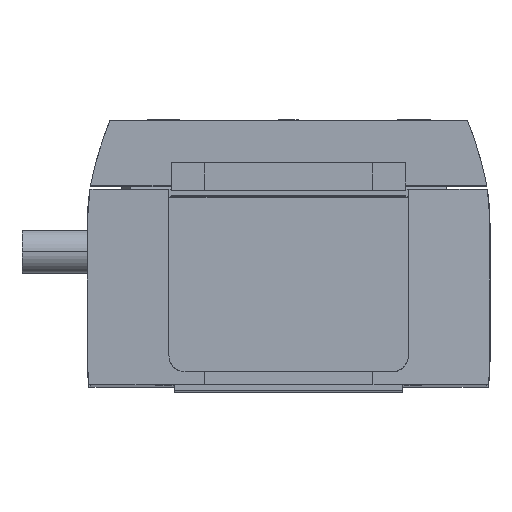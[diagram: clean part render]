
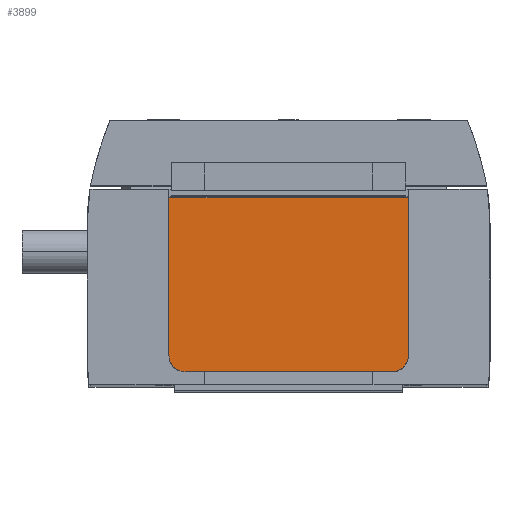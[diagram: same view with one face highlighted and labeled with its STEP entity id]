
A CAD part, top view. The second image highlights one B-rep face of the part: STEP entity #3899.
In plain terms, the highlighted planar face has unit normal (0, 0, 1).
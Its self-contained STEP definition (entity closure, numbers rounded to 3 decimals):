
#644 = CARTESIAN_POINT ( 'NONE',  ( 19., -19.6, 218.7 ) ) ;
#1228 = VECTOR ( 'NONE', #17626, 1000. ) ;
#1307 = EDGE_LOOP ( 'NONE', ( #10518, #6934, #12442, #23348, #8836, #17748 ) ) ;
#1359 = DIRECTION ( 'NONE',  ( 0., 1., 0. ) ) ;
#1942 = LINE ( 'NONE', #15416, #1228 ) ;
#2186 = CIRCLE ( 'NONE', #18596, 3. ) ;
#2213 = DIRECTION ( 'NONE',  ( 0., 0., 1. ) ) ;
#2316 = PLANE ( 'NONE',  #14459 ) ;
#2893 = DIRECTION ( 'NONE',  ( 1., 0., 0. ) ) ;
#3899 = ADVANCED_FACE ( 'NONE', ( #10058 ), #2316, .T. ) ;
#4530 = DIRECTION ( 'NONE',  ( 1., 0., 0. ) ) ;
#6934 = ORIENTED_EDGE ( 'NONE', *, *, #15915, .T. ) ;
#7270 = CARTESIAN_POINT ( 'NONE',  ( -22., 9.4, 218.7 ) ) ;
#7404 = CARTESIAN_POINT ( 'NONE',  ( -22., -19.6, 218.7 ) ) ;
#7724 = CARTESIAN_POINT ( 'NONE',  ( 22., 9.4, 218.7 ) ) ;
#7835 = CARTESIAN_POINT ( 'NONE',  ( -19., -22.6, 218.7 ) ) ;
#8130 = VECTOR ( 'NONE', #1359, 1000. ) ;
#8836 = ORIENTED_EDGE ( 'NONE', *, *, #26675, .T. ) ;
#10058 = FACE_OUTER_BOUND ( 'NONE', #1307, .T. ) ;
#10518 = ORIENTED_EDGE ( 'NONE', *, *, #20281, .T. ) ;
#11223 = VERTEX_POINT ( 'NONE', #7724 ) ;
#12442 = ORIENTED_EDGE ( 'NONE', *, *, #20007, .T. ) ;
#13079 = VECTOR ( 'NONE', #13354, 1000. ) ;
#13354 = DIRECTION ( 'NONE',  ( 0., -1., 0. ) ) ;
#13518 = AXIS2_PLACEMENT_3D ( 'NONE', #15395, #2213, #17611 ) ;
#13530 = CARTESIAN_POINT ( 'NONE',  ( 22., 9.4, 218.7 ) ) ;
#14459 = AXIS2_PLACEMENT_3D ( 'NONE', #24239, #17709, #4530 ) ;
#14967 = VECTOR ( 'NONE', #24587, 1000. ) ;
#15395 = CARTESIAN_POINT ( 'NONE',  ( -19., -19.6, 218.7 ) ) ;
#15416 = CARTESIAN_POINT ( 'NONE',  ( -22., -22.6, 218.7 ) ) ;
#15915 = EDGE_CURVE ( 'NONE', #22381, #16502, #2186, .T. ) ;
#16055 = DIRECTION ( 'NONE',  ( 0., 0., 1. ) ) ;
#16502 = VERTEX_POINT ( 'NONE', #24748 ) ;
#16578 = CARTESIAN_POINT ( 'NONE',  ( 19., -22.6, 218.7 ) ) ;
#17611 = DIRECTION ( 'NONE',  ( 1., 0., 0. ) ) ;
#17626 = DIRECTION ( 'NONE',  ( 1., 0., 0. ) ) ;
#17693 = VERTEX_POINT ( 'NONE', #7270 ) ;
#17709 = DIRECTION ( 'NONE',  ( 0., 0., 1. ) ) ;
#17718 = CARTESIAN_POINT ( 'NONE',  ( -22., 11., 218.7 ) ) ;
#17748 = ORIENTED_EDGE ( 'NONE', *, *, #20992, .T. ) ;
#18596 = AXIS2_PLACEMENT_3D ( 'NONE', #644, #16055, #2893 ) ;
#18955 = LINE ( 'NONE', #17718, #13079 ) ;
#19869 = LINE ( 'NONE', #27729, #8130 ) ;
#20007 = EDGE_CURVE ( 'NONE', #16502, #11223, #19869, .T. ) ;
#20281 = EDGE_CURVE ( 'NONE', #21373, #22381, #1942, .T. ) ;
#20828 = LINE ( 'NONE', #13530, #14967 ) ;
#20992 = EDGE_CURVE ( 'NONE', #28082, #21373, #24259, .T. ) ;
#21120 = EDGE_CURVE ( 'NONE', #17693, #11223, #20828, .T. ) ;
#21373 = VERTEX_POINT ( 'NONE', #7835 ) ;
#22381 = VERTEX_POINT ( 'NONE', #16578 ) ;
#23348 = ORIENTED_EDGE ( 'NONE', *, *, #21120, .F. ) ;
#24239 = CARTESIAN_POINT ( 'NONE',  ( -22., -22.6, 218.7 ) ) ;
#24259 = CIRCLE ( 'NONE', #13518, 3. ) ;
#24587 = DIRECTION ( 'NONE',  ( 1., 0., 0. ) ) ;
#24748 = CARTESIAN_POINT ( 'NONE',  ( 22., -19.6, 218.7 ) ) ;
#26675 = EDGE_CURVE ( 'NONE', #17693, #28082, #18955, .T. ) ;
#27729 = CARTESIAN_POINT ( 'NONE',  ( 22., 11., 218.7 ) ) ;
#28082 = VERTEX_POINT ( 'NONE', #7404 ) ;
